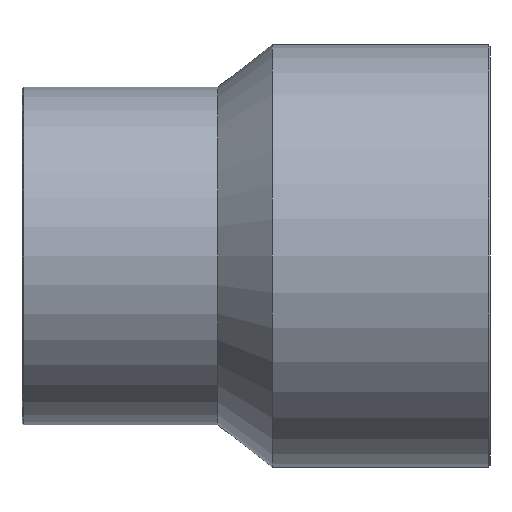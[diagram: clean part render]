
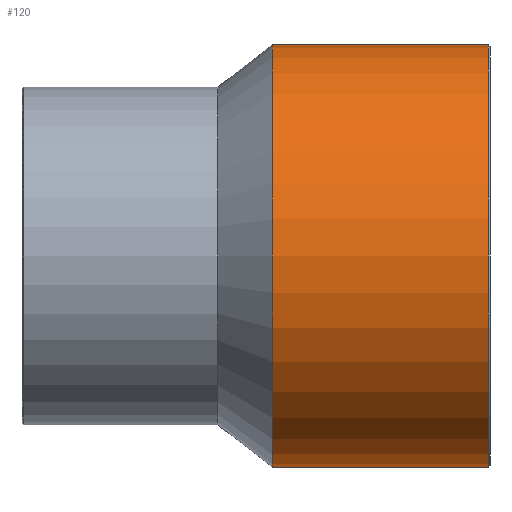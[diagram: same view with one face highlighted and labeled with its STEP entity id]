
A CAD part, front view. The second image highlights one B-rep face of the part: STEP entity #120.
In plain terms, the highlighted cylindrical face has radius 125 mm (diameter 250 mm), a full revolution.
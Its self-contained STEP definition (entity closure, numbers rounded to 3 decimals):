
#26=ORIENTED_EDGE('',*,*,#46,.T.);
#27=ORIENTED_EDGE('',*,*,#47,.F.);
#46=EDGE_CURVE('',#56,#56,#66,.T.);
#47=EDGE_CURVE('',#57,#57,#67,.T.);
#56=VERTEX_POINT('',#208);
#57=VERTEX_POINT('',#210);
#66=CIRCLE('',#144,125.);
#67=CIRCLE('',#145,125.);
#76=EDGE_LOOP('',(#26));
#77=EDGE_LOOP('',(#27));
#96=FACE_BOUND('',#76,.T.);
#97=FACE_BOUND('',#77,.T.);
#116=CYLINDRICAL_SURFACE('',#143,125.);
#120=ADVANCED_FACE('',(#96,#97),#116,.T.);
#143=AXIS2_PLACEMENT_3D('',#206,#165,#166);
#144=AXIS2_PLACEMENT_3D('',#207,#167,#168);
#145=AXIS2_PLACEMENT_3D('',#209,#169,#170);
#165=DIRECTION('',(-1.,0.,0.));
#166=DIRECTION('',(0.,0.,1.));
#167=DIRECTION('',(-1.,0.,0.));
#168=DIRECTION('',(0.,0.,1.));
#169=DIRECTION('',(-1.,0.,0.));
#170=DIRECTION('',(0.,0.,1.));
#206=CARTESIAN_POINT('',(-60.,0.,0.));
#207=CARTESIAN_POINT('',(144.,0.,0.));
#208=CARTESIAN_POINT('',(144.,0.,125.));
#209=CARTESIAN_POINT('',(16.,0.,0.));
#210=CARTESIAN_POINT('',(16.,0.,125.));
